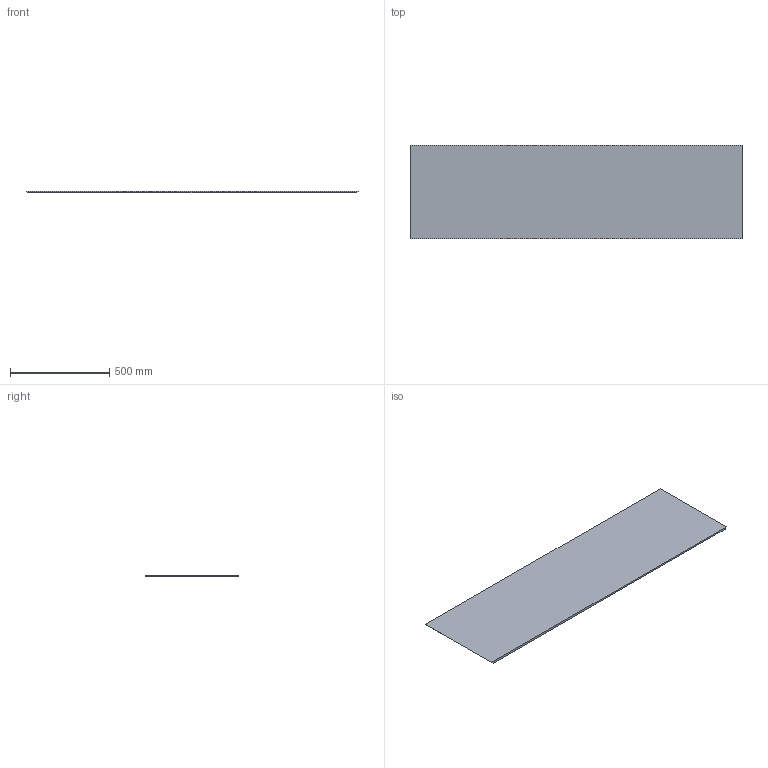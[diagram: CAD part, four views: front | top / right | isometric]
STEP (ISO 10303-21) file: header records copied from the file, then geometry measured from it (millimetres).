
FILE_DESCRIPTION(('Open CASCADE Model'),'2;1');
FILE_NAME('Open CASCADE Shape Model','2026-10-19T10:09:20',('Author'),( 'Open CASCADE'),'Open CASCADE STEP processor 8.0','Open CASCADE 8.0' ,'Unknown');
FILE_SCHEMA(('AUTOMOTIVE_DESIGN { 1 0 10303 214 1 1 1 1 }'));
Length unit declared in the file: millimetre
Products named in the file (1): LINER_CUERPO_UHMW10_P05 58
Bounding box: 1670 x 470.15 x 10 mm (x, y, z)
Volume: 7804490 mm3; surface area: 1607395.9 mm2
Topology: 1 solids, 1 shells, 6 faces, 12 edges, 8 vertices
Faces by surface type: plane 6
Entity records: 322 total; most frequent: CARTESIAN_POINT 51, DIRECTION 50, LINE 36, VECTOR 36, ORIENTED_EDGE 24, PCURVE 24, DEFINITIONAL_REPRESENTATION 24, EDGE_CURVE 12
